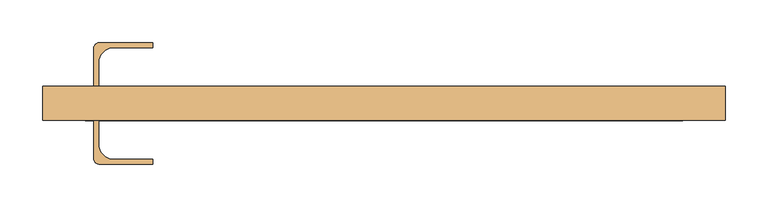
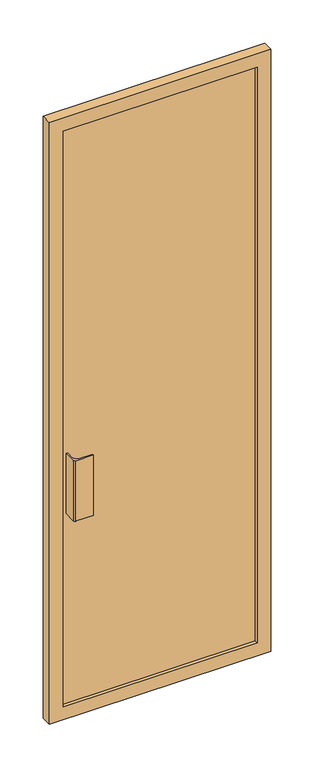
"""IFC4 building model written with IfcOpenShell, lengths in millimetres: door geometry, 门嵌板_单开门2 : 门嵌板_单开门2."""

from ifc_helpers import new_model, si_unit, point, frame, frame_2d, origin, place, context, project, spatial, polyline, circle_curve, trimmed, segment, composite_curve, outline, extrude, source, transform, mapped, element, save


def door_98f1c622(model_context):
    return source(origin(), model_context, "Body", "SweptSolid", [
        extrude(outline(composite_curve([segment(polyline([(-340.0, -20.0), (-334.5, -20.0), (-334.5, -47.5)]), True, "CONTINUOUS"), segment(trimmed(circle_curve(frame_2d((-316.5, -47.5)), 18.0), [point((-334.5, -47.5))], [point((-316.5, -65.5))], True, "CARTESIAN"), True, "CONTINUOUS"), segment(polyline([(-316.5, -65.5), (-271.0, -65.5), (-271.0, -71.0), (-334.0, -71.0)]), True, "CONTINUOUS"), segment(trimmed(circle_curve(frame_2d((-334.0, -65.0)), 6.0), [point((-334.0, -71.0))], [point((-340.0, -65.0))], False, "CARTESIAN"), True, "CONTINUOUS"), segment(polyline([(-340.0, -65.0), (-340.0, -20.0)]), True, "CONTINUOUS")], self_intersect=False)), frame((0.0, 0.0, 785.0), z_axis=(0.0, 0.0, 1.0), x_axis=(1.0, 0.0, 0.0)), (0.0, 0.0, 1.0), 230.0),
        extrude(outline(composite_curve([segment(polyline([(-340.0, 20.0), (-340.0, 65.0)]), True, "CONTINUOUS"), segment(trimmed(circle_curve(frame_2d((-334.0, 65.0)), 6.0), [point((-340.0, 65.0))], [point((-334.0, 71.0))], False, "CARTESIAN"), True, "CONTINUOUS"), segment(polyline([(-334.0, 71.0), (-271.0, 71.0), (-271.0, 65.5), (-316.5, 65.5)]), True, "CONTINUOUS"), segment(trimmed(circle_curve(frame_2d((-316.5, 47.5)), 18.0), [point((-316.5, 65.5))], [point((-334.5, 47.5))], True, "CARTESIAN"), True, "CONTINUOUS"), segment(polyline([(-334.5, 47.5), (-334.5, 20.0), (-340.0, 20.0)]), True, "CONTINUOUS")], self_intersect=False)), frame((0.0, 0.0, 785.0), z_axis=(0.0, 0.0, 1.0), x_axis=(1.0, 0.0, 0.0)), (0.0, 0.0, 1.0), 230.0),
        extrude(outline(polyline([(350.0, 7.5), (350.0, -7.5), (-350.0, -7.5), (-350.0, 7.5), (350.0, 7.5)])), frame((0.0, 0.0, 50.0), z_axis=(0.0, 0.0, 1.0), x_axis=(1.0, 0.0, 0.0)), (0.0, 0.0, 1.0), 2200.0),
        extrude(outline(polyline([(2300.0, -400.0), (0.0, -400.0), (0.0, 400.0), (2300.0, 400.0), (2300.0, -400.0)]), holes=[polyline([(2250.0, -350.0), (2250.0, 350.0), (50.0, 350.0), (50.0, -350.0), (2250.0, -350.0)])]), frame((0.0, -20.0, 0.0), z_axis=(0.0, 1.0, 0.0), x_axis=(0.0, 0.0, 1.0)), (0.0, 0.0, 1.0), 40.0),
    ])


if __name__ == "__main__":
    model = new_model("IFC4")
    model_context = context("Model", 3, world=origin())
    ifc_project = project(units=[si_unit("LENGTHUNIT", "METRE", prefix="MILLI")], contexts=[model_context])
    site = spatial("IfcSite", under=ifc_project)
    building = spatial("IfcBuilding", under=site)
    placement = place(None, origin())
    door_shape = door_98f1c622(model_context)
    element("IfcDoor", 1, ObjectType="门嵌板_单开门2 : 门嵌板_单开门2", at=placement, inside=building, context=model_context, shape_type="MappedRepresentation", body=[
        mapped(door_shape, transform((0.0, 0.0, 0.0), x_axis=(1.0, 0.0, 0.0), y_axis=(0.0, 1.0, 0.0), z_axis=(0.0, 0.0, 1.0))),
    ])
    save(model, "model.ifc")
